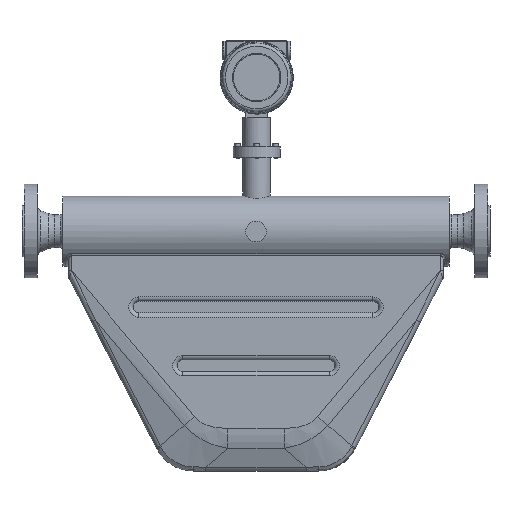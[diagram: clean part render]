
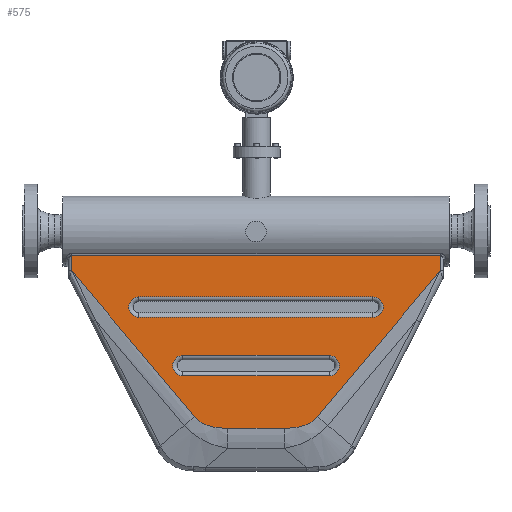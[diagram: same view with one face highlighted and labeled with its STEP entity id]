
A CAD part, top view. The second image highlights one B-rep face of the part: STEP entity #575.
In plain terms, the highlighted planar face has unit normal (0, 0, 1).
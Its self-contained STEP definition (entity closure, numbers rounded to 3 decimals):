
#575=ADVANCED_FACE('',(#4688,#4690,#4692),#4694,.F.);
#4688=FACE_BOUND('',#4689,.T.);
#4689=EDGE_LOOP('',(#8523,#8524,#8525,#8526,#8527,#8528,#8529,#8530));
#4690=FACE_BOUND('',#4691,.T.);
#4691=EDGE_LOOP('',(#8531,#8532,#8533,#8534));
#4692=FACE_BOUND('',#4693,.T.);
#4693=EDGE_LOOP('',(#8535,#8536,#8537,#8538));
#4694=PLANE('',#4695);
#4695=AXIS2_PLACEMENT_3D('',#4696,#4697,#4698);
#4696=CARTESIAN_POINT('',(32.375,-220.986,830.75));
#4697=DIRECTION('',(-0.,0.,-1.));
#4698=DIRECTION('',(-1.,0.,0.));
#8523=ORIENTED_EDGE('',*,*,#10397,.F.);
#8524=ORIENTED_EDGE('',*,*,#10398,.T.);
#8525=ORIENTED_EDGE('',*,*,#10399,.T.);
#8526=ORIENTED_EDGE('',*,*,#10400,.T.);
#8527=ORIENTED_EDGE('',*,*,#10401,.T.);
#8528=ORIENTED_EDGE('',*,*,#10334,.T.);
#8529=ORIENTED_EDGE('',*,*,#10402,.F.);
#8530=ORIENTED_EDGE('',*,*,#10403,.F.);
#8531=ORIENTED_EDGE('',*,*,#10404,.F.);
#8532=ORIENTED_EDGE('',*,*,#10405,.T.);
#8533=ORIENTED_EDGE('',*,*,#10406,.T.);
#8534=ORIENTED_EDGE('',*,*,#10407,.T.);
#8535=ORIENTED_EDGE('',*,*,#10408,.T.);
#8536=ORIENTED_EDGE('',*,*,#10409,.F.);
#8537=ORIENTED_EDGE('',*,*,#10410,.T.);
#8538=ORIENTED_EDGE('',*,*,#10411,.T.);
#10334=EDGE_CURVE('',#11381,#11378,#11382,.T.);
#10397=EDGE_CURVE('',#11498,#11499,#11500,.T.);
#10398=EDGE_CURVE('',#11498,#11501,#11502,.T.);
#10399=EDGE_CURVE('',#11501,#11503,#11504,.T.);
#10400=EDGE_CURVE('',#11503,#11505,#11506,.T.);
#10401=EDGE_CURVE('',#11505,#11381,#11507,.T.);
#10402=EDGE_CURVE('',#11508,#11378,#11509,.T.);
#10403=EDGE_CURVE('',#11499,#11508,#11510,.T.);
#10404=EDGE_CURVE('',#11511,#11512,#11513,.T.);
#10405=EDGE_CURVE('',#11511,#11514,#11515,.T.);
#10406=EDGE_CURVE('',#11514,#11516,#11517,.T.);
#10407=EDGE_CURVE('',#11516,#11512,#11518,.T.);
#10408=EDGE_CURVE('',#11519,#11520,#11521,.T.);
#10409=EDGE_CURVE('',#11522,#11520,#11523,.T.);
#10410=EDGE_CURVE('',#11522,#11524,#11525,.T.);
#10411=EDGE_CURVE('',#11524,#11519,#11526,.T.);
#11378=VERTEX_POINT('',#14243);
#11381=VERTEX_POINT('',#14270);
#11382=LINE('',#14271,#14272);
#11498=VERTEX_POINT('',#14688);
#11499=VERTEX_POINT('',#14689);
#11500=(BOUNDED_CURVE()B_SPLINE_CURVE(3,
(#14690,#14691,#14692,#14693),
.UNSPECIFIED.,.F.,.F.)B_SPLINE_CURVE_WITH_KNOTS((4,4),
(0.,1.),
.UNSPECIFIED.)CURVE()GEOMETRIC_REPRESENTATION_ITEM()RATIONAL_B_SPLINE_CURVE((1.,
0.994,0.994,1.))REPRESENTATION_ITEM(''));
#11501=VERTEX_POINT('',#14694);
#11502=LINE('',#14695,#14696);
#11503=VERTEX_POINT('',#14698);
#11504=(BOUNDED_CURVE()B_SPLINE_CURVE(3,
(#14699,#14700,#14701,#14702),
.UNSPECIFIED.,.F.,.F.)B_SPLINE_CURVE_WITH_KNOTS((4,4),
(0.,1.),
.UNSPECIFIED.)CURVE()GEOMETRIC_REPRESENTATION_ITEM()RATIONAL_B_SPLINE_CURVE((1.,
0.994,0.994,1.))REPRESENTATION_ITEM(''));
#11505=VERTEX_POINT('',#14703);
#11506=LINE('',#14704,#14705);
#11507=LINE('',#14707,#14708);
#11508=VERTEX_POINT('',#14710);
#11509=LINE('',#14711,#14712);
#11510=LINE('',#14714,#14715);
#11511=VERTEX_POINT('',#14717);
#11512=VERTEX_POINT('',#14718);
#11513=CIRCLE('',#14719,17.416);
#11514=VERTEX_POINT('',#14723);
#11515=LINE('',#14724,#14725);
#11516=VERTEX_POINT('',#14727);
#11517=CIRCLE('',#14728,17.416);
#11518=LINE('',#14732,#14733);
#11519=VERTEX_POINT('',#14735);
#11520=VERTEX_POINT('',#14736);
#11521=LINE('',#14737,#14738);
#11522=VERTEX_POINT('',#14740);
#11523=CIRCLE('',#14741,17.416);
#11524=VERTEX_POINT('',#14745);
#11525=LINE('',#14746,#14747);
#11526=CIRCLE('',#14749,17.416);
#14243=CARTESIAN_POINT('',(-389.943,77.48,830.75));
#14270=CARTESIAN_POINT('',(240.057,77.48,830.75));
#14271=CARTESIAN_POINT('',(240.057,77.48,830.75));
#14272=VECTOR('',#14273,1.);
#14273=DIRECTION('',(-1.,0.,0.));
#14688=CARTESIAN_POINT('',(-123.523,-218.369,830.75));
#14689=CARTESIAN_POINT('',(-180.069,-198.017,830.75));
#14690=CARTESIAN_POINT('',(-123.523,-218.369,830.75));
#14691=CARTESIAN_POINT('',(-149.718,-218.369,830.75));
#14692=CARTESIAN_POINT('',(-168.678,-211.545,830.75));
#14693=CARTESIAN_POINT('',(-180.069,-198.017,830.75));
#14694=CARTESIAN_POINT('',(-26.364,-218.369,830.75));
#14695=CARTESIAN_POINT('',(-123.523,-218.369,830.75));
#14696=VECTOR('',#14697,1.);
#14697=DIRECTION('',(1.,0.,0.));
#14698=CARTESIAN_POINT('',(30.182,-198.017,830.75));
#14699=CARTESIAN_POINT('',(-26.364,-218.369,830.75));
#14700=CARTESIAN_POINT('',(-0.169,-218.369,830.75));
#14701=CARTESIAN_POINT('',(18.791,-211.545,830.75));
#14702=CARTESIAN_POINT('',(30.182,-198.017,830.75));
#14703=CARTESIAN_POINT('',(240.057,51.231,830.75));
#14704=CARTESIAN_POINT('',(30.182,-198.017,830.75));
#14705=VECTOR('',#14706,1.);
#14706=DIRECTION('',(0.644,0.765,0.));
#14707=CARTESIAN_POINT('',(240.057,51.231,830.75));
#14708=VECTOR('',#14709,1.);
#14709=DIRECTION('',(0.,1.,0.));
#14710=CARTESIAN_POINT('',(-389.943,51.231,830.75));
#14711=CARTESIAN_POINT('',(-389.943,51.231,830.75));
#14712=VECTOR('',#14713,1.);
#14713=DIRECTION('',(0.,1.,0.));
#14714=CARTESIAN_POINT('',(-180.069,-198.017,830.75));
#14715=VECTOR('',#14716,1.);
#14716=DIRECTION('',(-0.644,0.765,0.));
#14717=CARTESIAN_POINT('',(-274.943,6.43,830.75));
#14718=CARTESIAN_POINT('',(-274.943,-28.403,830.75));
#14719=AXIS2_PLACEMENT_3D('',#14720,#14721,#14722);
#14720=CARTESIAN_POINT('',(-274.943,-10.986,830.75));
#14721=DIRECTION('',(-0.,0.,1.));
#14722=DIRECTION('',(0.,1.,0.));
#14723=CARTESIAN_POINT('',(125.057,6.43,830.75));
#14724=CARTESIAN_POINT('',(-274.943,6.43,830.75));
#14725=VECTOR('',#14726,1.);
#14726=DIRECTION('',(1.,0.,0.));
#14727=CARTESIAN_POINT('',(125.057,-28.403,830.75));
#14728=AXIS2_PLACEMENT_3D('',#14729,#14730,#14731);
#14729=CARTESIAN_POINT('',(125.057,-10.986,830.75));
#14730=DIRECTION('',(-0.,0.,-1.));
#14731=DIRECTION('',(0.,1.,0.));
#14732=CARTESIAN_POINT('',(125.057,-28.403,830.75));
#14733=VECTOR('',#14734,1.);
#14734=DIRECTION('',(-1.,0.,0.));
#14735=CARTESIAN_POINT('',(50.057,-128.403,830.75));
#14736=CARTESIAN_POINT('',(-199.943,-128.403,830.75));
#14737=CARTESIAN_POINT('',(50.057,-128.403,830.75));
#14738=VECTOR('',#14739,1.);
#14739=DIRECTION('',(-1.,0.,0.));
#14740=CARTESIAN_POINT('',(-199.943,-93.57,830.75));
#14741=AXIS2_PLACEMENT_3D('',#14742,#14743,#14744);
#14742=CARTESIAN_POINT('',(-199.943,-110.986,830.75));
#14743=DIRECTION('',(-0.,0.,1.));
#14744=DIRECTION('',(0.,1.,0.));
#14745=CARTESIAN_POINT('',(50.057,-93.57,830.75));
#14746=CARTESIAN_POINT('',(-199.943,-93.57,830.75));
#14747=VECTOR('',#14748,1.);
#14748=DIRECTION('',(1.,0.,0.));
#14749=AXIS2_PLACEMENT_3D('',#14750,#14751,#14752);
#14750=CARTESIAN_POINT('',(50.057,-110.986,830.75));
#14751=DIRECTION('',(-0.,0.,-1.));
#14752=DIRECTION('',(0.,1.,0.));
